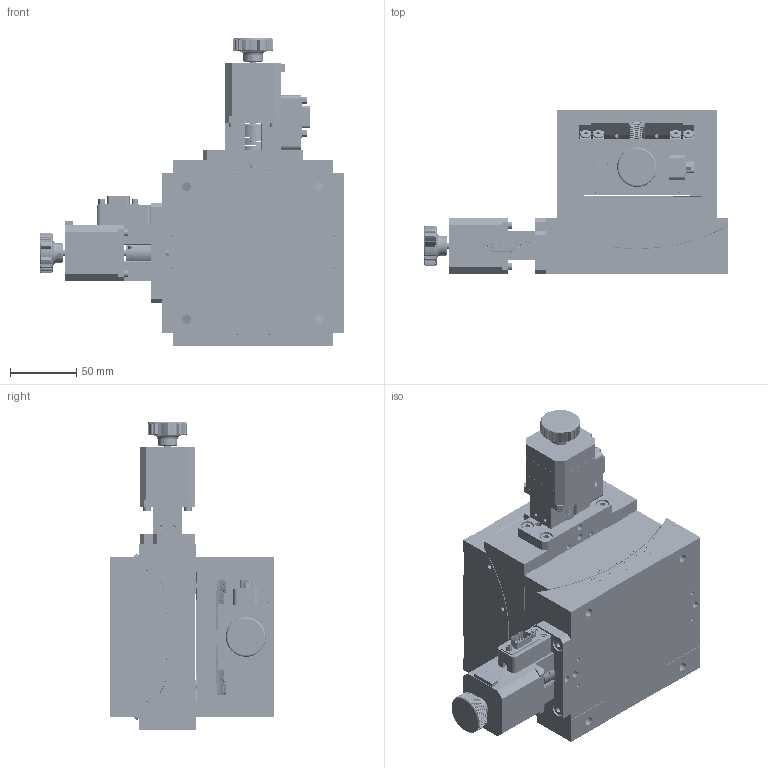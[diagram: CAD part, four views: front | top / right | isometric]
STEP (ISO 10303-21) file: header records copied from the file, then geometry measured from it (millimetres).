
FILE_DESCRIPTION (( 'STEP AP203' ), '1' );
FILE_NAME ('PT-GD124+PT-GD145萇雄褒弇怢.STEP', '2025-08-05T03:59:00', ( '' ), ( '' ), 'SwSTEP 2.0', 'SolidWorks 2023', '' );
FILE_SCHEMA (( 'CONFIG_CONTROL_DESIGN' ));
Length unit declared in the file: millimetre
Products named in the file (38): PT-GD124装配; PT-GD124-12轴承锁母; PT-GD124-07导轨左; PT-GD124-03电机座连接板X; PT-GD145-09钢球固定架; PT-GD124-08导轨右; GB／T 70．1-2000[内六角圆柱头螺钉M3×10]; 9针座; PT-GD124-10背母; PT-GD145-05涡杆; PT-GD124-01底座; PDV-42电机手轮; GB／T 896-86[开口挡圈6]; GB／T 77-2000[内六角平端紧定螺钉M4×5]; SST43D2046; PT-GD124+PT-GD145电动角位台; 9针座螺钉; GB／T 70．1-2000[内六角圆柱头螺钉M3×16]; GB／T 70．1-2000[内六角圆柱头螺钉M5×10]; PT-GD124-11背母2; PT-GD145-08导轨右; PT-GD124-13轴承座; GB／T 70．1-2000[内六角圆柱头螺钉M4×12]; GB／T 276-94[深沟球轴承607-2Z]; PT-GD145-01底座; PT-GD145-06涡轮; 电机9针座标准件; D3钢球; PT-GD124-05涡杆; GB／T 70．1-2000[内六角圆柱头螺钉M4×16]; PT-GD145-07导轨左; PT-GD124-02台面; 联轴器26-20-5-5; MVR3螺钉; PT-GD124-06涡轮; PT-GD145装配; PT-GD145-02台面; PT-GD124-09钢球固定架
Assembly tree (234 placements, depth 3):
  PT-GD124+PT-GD145电动角位台
    PT-GD124装配
      PT-GD124-01底座
      PT-GD124-02台面
      PT-GD124-06涡轮
      PT-GD124-05涡杆
      PT-GD124-08导轨右  x2
      PT-GD124-07导轨左  x2
      PT-GD124-13轴承座  x2
      GB／T 276-94[深沟球轴承607-2Z]  x2
      PT-GD124-10背母
      PT-GD124-12轴承锁母
      PT-GD124-11背母2
      联轴器26-20-5-5
      SST43D2046
      PDV-42电机手轮
      9针座
      MVR3螺钉  x8
      GB／T 70．1-2000[内六角圆柱头螺钉M4×12]  x18
      GB／T 70．1-2000[内六角圆柱头螺钉M3×10]  x14
      GB／T 70．1-2000[内六角圆柱头螺钉M5×10]  x4
      9针座螺钉  x2
      GB／T 70．1-2000[内六角圆柱头螺钉M4×16]  x10
      GB／T 77-2000[内六角平端紧定螺钉M4×5]  x12
      GB／T 896-86[开口挡圈6]
      PT-GD124-09钢球固定架  x2
      D3钢球  x22
      PT-GD124-03电机座连接板X
      电机9针座标准件
      GB／T 70．1-2000[内六角圆柱头螺钉M3×16]  x2
    PT-GD145装配
      PT-GD145-01底座
      PT-GD145-02台面
      PT-GD145-06涡轮
      PT-GD145-05涡杆
      PT-GD145-08导轨右  x2
      PT-GD145-07导轨左  x2
      PT-GD124-13轴承座  x2
      GB／T 276-94[深沟球轴承607-2Z]  x2
      PT-GD124-10背母
      PT-GD124-12轴承锁母
      PT-GD124-11背母2
      PT-GD124-03电机座连接板X
      联轴器26-20-5-5
      SST43D2046
      PDV-42电机手轮
      9针座
      MVR3螺钉  x8
      GB／T 70．1-2000[内六角圆柱头螺钉M4×12]  x18
      GB／T 70．1-2000[内六角圆柱头螺钉M3×10]  x14
      GB／T 70．1-2000[内六角圆柱头螺钉M5×10]  x4
      GB／T 70．1-2000[内六角圆柱头螺钉M3×16]  x2
      9针座螺钉  x2
      GB／T 70．1-2000[内六角圆柱头螺钉M4×16]  x10
      GB／T 77-2000[内六角平端紧定螺钉M4×5]  x12
      GB／T 896-86[开口挡圈6]
      PT-GD145-09钢球固定架  x2
      D3钢球  x22
      电机9针座标准件
Bounding box: 230 x 124 x 232 mm (x, y, z)
Volume: 1889831.1 mm3; surface area: 493290.3 mm2
Topology: 232 solids, 232 shells, 9635 faces, 25549 edges, 16508 vertices
Faces by surface type: plane 4014, cylinder 2873, bspline 1064, cone 652, torus 620, sphere 412
Entity records: 249529 total; most frequent: CARTESIAN_POINT 121677, ORIENTED_EDGE 27540, DIRECTION 20570, EDGE_CURVE 13770, VERTEX_POINT 9106, AXIS2_PLACEMENT_3D 7112, VECTOR 6346, LINE 6346
